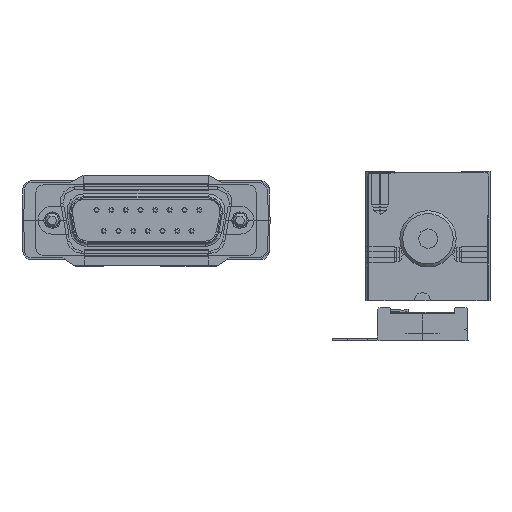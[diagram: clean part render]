
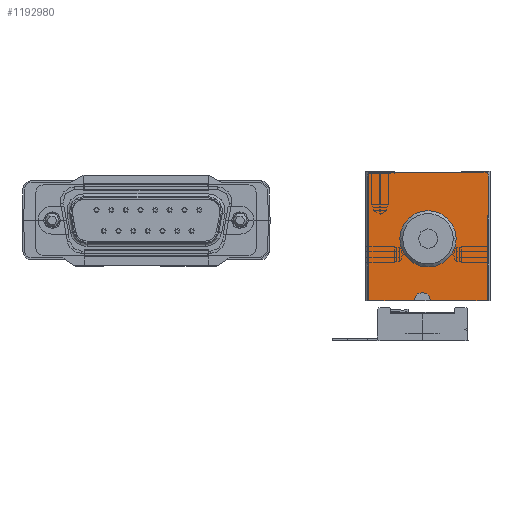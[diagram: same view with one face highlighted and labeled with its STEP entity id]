
A CAD part, front view. The second image highlights one B-rep face of the part: STEP entity #1192980.
In plain terms, the highlighted planar face has unit normal (0, -1, 0) as drawn and (1, 0, 0) by its records, which use the part's own axes.
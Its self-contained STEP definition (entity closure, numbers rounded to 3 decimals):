
#1184300=CARTESIAN_POINT('',(40.,22.,0.));
#1184310=DIRECTION('',(0.,-1.,0.));
#1184320=VECTOR('',#1184310,1.);
#1184330=LINE('',#1184300,#1184320);
#1184340=CARTESIAN_POINT('',(40.,5.,0.));
#1184350=VERTEX_POINT('',#1184340);
#1184360=CARTESIAN_POINT('',(40.,0.5,0.));
#1184370=VERTEX_POINT('',#1184360);
#1184380=EDGE_CURVE('',#1184350,#1184370,#1184330,.T.);
#1187250=CARTESIAN_POINT('',(40.,0.5,-23.));
#1187260=VERTEX_POINT('',#1187250);
#1187290=CARTESIAN_POINT('',(40.,0.,-23.));
#1187300=DIRECTION('',(0.,1.,0.));
#1187310=VECTOR('',#1187300,1.);
#1187320=LINE('',#1187290,#1187310);
#1187330=CARTESIAN_POINT('',(40.,8.6,-23.));
#1187340=VERTEX_POINT('',#1187330);
#1187350=EDGE_CURVE('',#1187260,#1187340,#1187320,.T.);
#1187570=CARTESIAN_POINT('',(40.,11.4,-23.));
#1187580=VERTEX_POINT('',#1187570);
#1187610=CARTESIAN_POINT('',(40.,21.5,-23.));
#1187620=VERTEX_POINT('',#1187610);
#1187630=EDGE_CURVE('',#1187580,#1187620,#1187320,.T.);
#1189550=CARTESIAN_POINT('',(40.,11.4,0.));
#1189560=DIRECTION('',(0.,0.,1.));
#1189570=VECTOR('',#1189560,1.);
#1189580=LINE('',#1189550,#1189570);
#1189590=CARTESIAN_POINT('',(40.,11.4,-22.8));
#1189600=VERTEX_POINT('',#1189590);
#1189610=EDGE_CURVE('',#1187580,#1189600,#1189580,.T.);
#1190280=CARTESIAN_POINT('',(40.,9.8,-22.8));
#1190290=DIRECTION('',(-1.,0.,0.));
#1190300=DIRECTION('',(0.,1.,0.));
#1190310=AXIS2_PLACEMENT_3D('',#1190280,#1190290,#1190300);
#1190320=CIRCLE('',#1190310,1.2);
#1190330=CARTESIAN_POINT('',(40.,8.6,-22.8));
#1190340=VERTEX_POINT('',#1190330);
#1190350=CARTESIAN_POINT('',(40.,9.8,-21.6));
#1190360=VERTEX_POINT('',#1190350);
#1190370=EDGE_CURVE('',#1190340,#1190360,#1190320,.T.);
#1190600=CARTESIAN_POINT('',(40.,0.,-21.6));
#1190610=DIRECTION('',(0.,-1.,0.));
#1190620=VECTOR('',#1190610,1.);
#1190630=LINE('',#1190600,#1190620);
#1190640=CARTESIAN_POINT('',(40.,10.2,-21.6));
#1190650=VERTEX_POINT('',#1190640);
#1190660=EDGE_CURVE('',#1190650,#1190360,#1190630,.T.);
#1190860=CARTESIAN_POINT('',(40.,10.2,-22.8));
#1190870=DIRECTION('',(-1.,0.,0.));
#1190880=DIRECTION('',(0.,1.,0.));
#1190890=AXIS2_PLACEMENT_3D('',#1190860,#1190870,#1190880);
#1190900=CIRCLE('',#1190890,1.2);
#1190910=EDGE_CURVE('',#1190650,#1189600,#1190900,.T.);
#1191040=CARTESIAN_POINT('',(40.,8.6,0.));
#1191050=DIRECTION('',(0.,0.,-1.));
#1191060=VECTOR('',#1191050,1.);
#1191070=LINE('',#1191040,#1191060);
#1191080=EDGE_CURVE('',#1190340,#1187340,#1191070,.T.);
#1191190=CARTESIAN_POINT('',(40.,5.846,-7.9));
#1191200=DIRECTION('',(0.,-1.,0.));
#1191210=VECTOR('',#1191200,1.);
#1191220=LINE('',#1191190,#1191210);
#1191230=CARTESIAN_POINT('',(40.,21.8,-7.9));
#1191240=VERTEX_POINT('',#1191230);
#1191250=CARTESIAN_POINT('',(40.,21.5,-7.9));
#1191260=VERTEX_POINT('',#1191250);
#1191270=EDGE_CURVE('',#1191240,#1191260,#1191220,.T.);
#1192000=CARTESIAN_POINT('',(40.,0.1,-0.8))
;
#1192010=DIRECTION('',(1.,-0.,0.));
#1192020=DIRECTION('',(0.,0.,-1.));
#1192030=AXIS2_PLACEMENT_3D('',#1192000,#1192010,#1192020);
#1192040=PLANE('',#1192030);
#1192050=CARTESIAN_POINT('',(40.,20.9,-1.1));
#1192060=DIRECTION('',(1.,0.,0.));
#1192070=DIRECTION('',(0.,-1.,0.));
#1192080=AXIS2_PLACEMENT_3D('',#1192050,#1192060,#1192070);
#1192090=CIRCLE('',#1192080,0.9);
#1192100=CARTESIAN_POINT('',(40.,21.8,-1.1));
#1192110=VERTEX_POINT('',#1192100);
#1192120=CARTESIAN_POINT('',(40.,20.9,-0.2));
#1192130=VERTEX_POINT('',#1192120);
#1192140=EDGE_CURVE('',#1192110,#1192130,#1192090,.T.);
#1192150=ORIENTED_EDGE('',*,*,#1192140,.T.);
#1192160=CARTESIAN_POINT('',(40.,21.8,-0.8));
#1192170=DIRECTION('',(0.,0.,1.));
#1192180=VECTOR('',#1192170,1.);
#1192190=LINE('',#1192160,#1192180);
#1192200=EDGE_CURVE('',#1191240,#1192110,#1192190,.T.);
#1192210=ORIENTED_EDGE('',*,*,#1192200,.T.);
#1192220=ORIENTED_EDGE('',*,*,#1191270,.F.);
#1192230=CARTESIAN_POINT('',(40.,21.5,0.));
#1192240=DIRECTION('',(0.,0.,1.));
#1192250=VECTOR('',#1192240,1.);
#1192260=LINE('',#1192230,#1192250);
#1192270=CARTESIAN_POINT('',(40.,21.5,-8.));
#1192280=VERTEX_POINT('',#1192270);
#1192290=EDGE_CURVE('',#1192280,#1191260,#1192260,.T.);
#1192300=ORIENTED_EDGE('',*,*,#1192290,.T.);
#1192310=CARTESIAN_POINT('',(40.,21.5,-15.5));
#1192320=DIRECTION('',(0.,0.,-1.));
#1192330=VECTOR('',#1192320,1.);
#1192340=LINE('',#1192310,#1192330);
#1192350=EDGE_CURVE('',#1192280,#1187620,#1192340,.T.);
#1192360=ORIENTED_EDGE('',*,*,#1192350,.F.);
#1192370=ORIENTED_EDGE('',*,*,#1187630,.T.);
#1192380=ORIENTED_EDGE('',*,*,#1189610,.F.);
#1192390=ORIENTED_EDGE('',*,*,#1190910,.T.);
#1192400=ORIENTED_EDGE('',*,*,#1190660,.F.);
#1192410=ORIENTED_EDGE('',*,*,#1190370,.T.);
#1192420=ORIENTED_EDGE('',*,*,#1191080,.F.);
#1192430=ORIENTED_EDGE('',*,*,#1187350,.T.);
#1192440=CARTESIAN_POINT('',(40.,0.5,-11.5));
#1192450=DIRECTION('',(0.,0.,-1.));
#1192460=VECTOR('',#1192450,1.);
#1192470=LINE('',#1192440,#1192460);
#1192480=EDGE_CURVE('',#1184370,#1187260,#1192470,.T.);
#1192490=ORIENTED_EDGE('',*,*,#1192480,.T.);
#1192500=ORIENTED_EDGE('',*,*,#1184380,.T.);
#1192510=CARTESIAN_POINT('',(40.,5.,0.));
#1192520=DIRECTION('',(0.,0.,-1.));
#1192530=VECTOR('',#1192520,1.);
#1192540=LINE('',#1192510,#1192530);
#1192550=CARTESIAN_POINT('',(40.,5.,-0.5));
#1192560=VERTEX_POINT('',#1192550);
#1192570=EDGE_CURVE('',#1184350,#1192560,#1192540,.T.);
#1192580=ORIENTED_EDGE('',*,*,#1192570,.F.);
#1192590=CARTESIAN_POINT('',(40.,0.,-0.5));
#1192600=DIRECTION('',(0.,-1.,0.));
#1192610=VECTOR('',#1192600,1.);
#1192620=LINE('',#1192590,#1192610);
#1192630=CARTESIAN_POINT('',(40.,5.05,-0.5));
#1192640=VERTEX_POINT('',#1192630);
#1192650=EDGE_CURVE('',#1192640,#1192560,#1192620,.T.);
#1192660=ORIENTED_EDGE('',*,*,#1192650,.T.);
#1192670=CARTESIAN_POINT('',(40.,5.05,-0.8));
#1192680=DIRECTION('',(0.,0.,1.));
#1192690=VECTOR('',#1192680,1.);
#1192700=LINE('',#1192670,#1192690);
#1192710=CARTESIAN_POINT('',(40.,5.05,-0.2));
#1192720=VERTEX_POINT('',#1192710);
#1192730=EDGE_CURVE('',#1192640,#1192720,#1192700,.T.);
#1192740=ORIENTED_EDGE('',*,*,#1192730,.F.);
#1192750=CARTESIAN_POINT('',(40.,5.646,-0.2));
#1192760=DIRECTION('',(0.,1.,0.));
#1192770=VECTOR('',#1192760,1.);
#1192780=LINE('',#1192750,#1192770);
#1192790=EDGE_CURVE('',#1192720,#1192130,#1192780,.T.);
#1192800=ORIENTED_EDGE('',*,*,#1192790,.F.);
#1192810=EDGE_LOOP('',(#1192800,#1192740,#1192660,#1192580,#1192500,
#1192490,#1192430,#1192420,#1192410,#1192400,#1192390,#1192380,#1192370,
#1192360,#1192300,#1192220,#1192210,#1192150));
#1192820=FACE_OUTER_BOUND('',#1192810,.T.);
#1192830=CARTESIAN_POINT('',(40.,11.,-12.));
#1192840=DIRECTION('',(1.,0.,0.));
#1192850=DIRECTION('',(0.,1.,0.));
#1192860=AXIS2_PLACEMENT_3D('',#1192830,#1192840,#1192850);
#1192870=CIRCLE('',#1192860,5.);
#1192880=CARTESIAN_POINT('',(40.,16.,-12.));
#1192890=VERTEX_POINT('',#1192880);
#1192900=CARTESIAN_POINT('',(40.,6.,-12.));
#1192910=VERTEX_POINT('',#1192900);
#1192920=EDGE_CURVE('',#1192890,#1192910,#1192870,.T.);
#1192930=ORIENTED_EDGE('',*,*,#1192920,.F.);
#1192940=EDGE_CURVE('',#1192910,#1192890,#1192870,.T.);
#1192950=ORIENTED_EDGE('',*,*,#1192940,.F.);
#1192960=EDGE_LOOP('',(#1192950,#1192930));
#1192970=FACE_BOUND('',#1192960,.T.);
#1192980=ADVANCED_FACE('',(#1192820,#1192970),#1192040,.T.);
